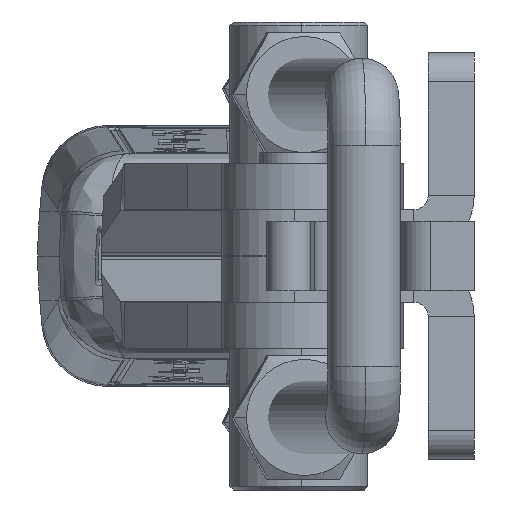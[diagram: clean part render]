
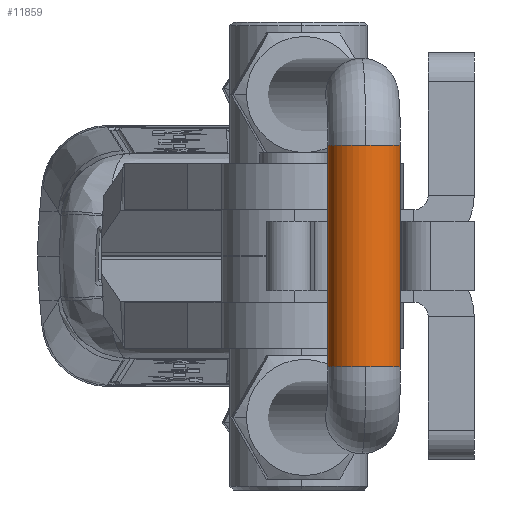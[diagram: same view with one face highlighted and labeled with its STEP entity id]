
A CAD part, left-side view. The second image highlights one B-rep face of the part: STEP entity #11859.
In plain terms, the highlighted cylindrical face has radius 5 mm (diameter 10 mm), a partial arc.
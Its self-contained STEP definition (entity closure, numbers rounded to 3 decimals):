
#233 = EDGE_CURVE ( 'NONE', #19864, #12463, #9047, .T. ) ;
#1675 = FACE_OUTER_BOUND ( 'NONE', #7844, .T. ) ;
#3016 = ORIENTED_EDGE ( 'NONE', *, *, #5108, .F. ) ;
#3234 = CIRCLE ( 'NONE', #5840, 5. ) ;
#3434 = CARTESIAN_POINT ( 'NONE',  ( -15.25, 215., 0. ) ) ;
#3469 = DIRECTION ( 'NONE',  ( 1., 0., 0. ) ) ;
#3532 = LINE ( 'NONE', #19648, #18734 ) ;
#3878 = DIRECTION ( 'NONE',  ( 1., 0., 0. ) ) ;
#4562 = EDGE_CURVE ( 'NONE', #7375, #7139, #3234, .T. ) ;
#4818 = EDGE_CURVE ( 'NONE', #7139, #19864, #19662, .T. ) ;
#4952 = DIRECTION ( 'NONE',  ( 0., 0., -1. ) ) ;
#5108 = EDGE_CURVE ( 'NONE', #19541, #12463, #7713, .T. ) ;
#5221 = CARTESIAN_POINT ( 'NONE',  ( -15.25, 215., 5. ) ) ;
#5294 = DIRECTION ( 'NONE',  ( 1., 0., 0. ) ) ;
#5840 = AXIS2_PLACEMENT_3D ( 'NONE', #9300, #10950, #11295 ) ;
#7139 = VERTEX_POINT ( 'NONE', #11611 ) ;
#7375 = VERTEX_POINT ( 'NONE', #12550 ) ;
#7713 = CIRCLE ( 'NONE', #15551, 5. ) ;
#7844 = EDGE_LOOP ( 'NONE', ( #19253, #13389, #10643, #3016, #16959, #9110 ) ) ;
#8415 = CARTESIAN_POINT ( 'NONE',  ( 15.25, 215., 0. ) ) ;
#9047 = LINE ( 'NONE', #5221, #21107 ) ;
#9110 = ORIENTED_EDGE ( 'NONE', *, *, #19389, .F. ) ;
#9300 = CARTESIAN_POINT ( 'NONE',  ( -15.25, 215., 0. ) ) ;
#9753 = AXIS2_PLACEMENT_3D ( 'NONE', #20801, #10511, #15889 ) ;
#9778 = CARTESIAN_POINT ( 'NONE',  ( 15.25, 215., 5. ) ) ;
#9915 = CARTESIAN_POINT ( 'NONE',  ( 15.25, 220., 0. ) ) ;
#10511 = DIRECTION ( 'NONE',  ( 1., 0., 0. ) ) ;
#10643 = ORIENTED_EDGE ( 'NONE', *, *, #233, .T. ) ;
#10901 = CIRCLE ( 'NONE', #9753, 5. ) ;
#10950 = DIRECTION ( 'NONE',  ( 1., 0., 0. ) ) ;
#11295 = DIRECTION ( 'NONE',  ( 0., 0., 1. ) ) ;
#11611 = CARTESIAN_POINT ( 'NONE',  ( -15.25, 220., 0. ) ) ;
#11859 = ADVANCED_FACE ( 'NONE', ( #1675 ), #21308, .T. ) ;
#12062 = VERTEX_POINT ( 'NONE', #14298 ) ;
#12463 = VERTEX_POINT ( 'NONE', #9778 ) ;
#12550 = CARTESIAN_POINT ( 'NONE',  ( -15.25, 215., -5. ) ) ;
#13389 = ORIENTED_EDGE ( 'NONE', *, *, #4818, .T. ) ;
#13972 = DIRECTION ( 'NONE',  ( 0., 0., 1. ) ) ;
#14298 = CARTESIAN_POINT ( 'NONE',  ( 15.25, 215., -5. ) ) ;
#14534 = AXIS2_PLACEMENT_3D ( 'NONE', #3434, #5294, #4952 ) ;
#15057 = CARTESIAN_POINT ( 'NONE',  ( -15.25, 215., 5. ) ) ;
#15551 = AXIS2_PLACEMENT_3D ( 'NONE', #8415, #20705, #19298 ) ;
#15889 = DIRECTION ( 'NONE',  ( 0., 0., 1. ) ) ;
#16959 = ORIENTED_EDGE ( 'NONE', *, *, #18733, .F. ) ;
#17471 = CARTESIAN_POINT ( 'NONE',  ( -15.25, 215., 0. ) ) ;
#18733 = EDGE_CURVE ( 'NONE', #12062, #19541, #10901, .T. ) ;
#18734 = VECTOR ( 'NONE', #3878, 1000. ) ;
#19253 = ORIENTED_EDGE ( 'NONE', *, *, #4562, .T. ) ;
#19298 = DIRECTION ( 'NONE',  ( 0., 0., 1. ) ) ;
#19389 = EDGE_CURVE ( 'NONE', #7375, #12062, #3532, .T. ) ;
#19541 = VERTEX_POINT ( 'NONE', #9915 ) ;
#19648 = CARTESIAN_POINT ( 'NONE',  ( -15.25, 215., -5. ) ) ;
#19662 = CIRCLE ( 'NONE', #20397, 5. ) ;
#19864 = VERTEX_POINT ( 'NONE', #15057 ) ;
#19941 = DIRECTION ( 'NONE',  ( 1., 0., 0. ) ) ;
#20397 = AXIS2_PLACEMENT_3D ( 'NONE', #17471, #3469, #13972 ) ;
#20705 = DIRECTION ( 'NONE',  ( 1., 0., 0. ) ) ;
#20801 = CARTESIAN_POINT ( 'NONE',  ( 15.25, 215., 0. ) ) ;
#21107 = VECTOR ( 'NONE', #19941, 1000. ) ;
#21308 = CYLINDRICAL_SURFACE ( 'NONE', #14534, 5. ) ;
